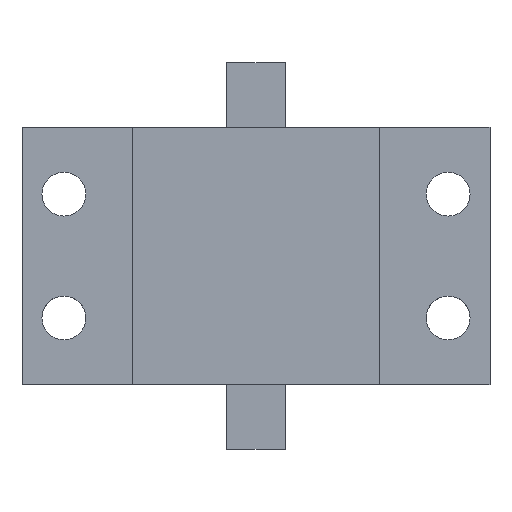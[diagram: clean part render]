
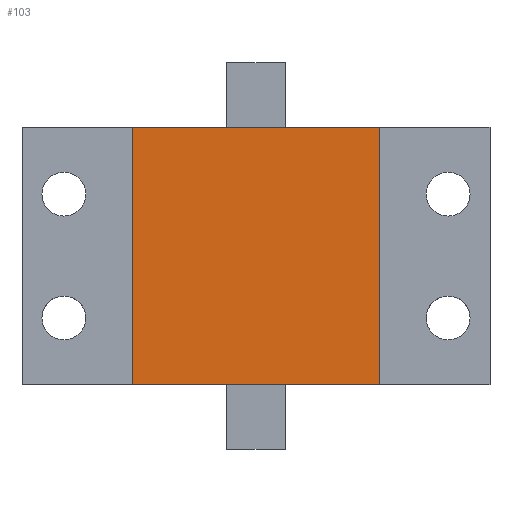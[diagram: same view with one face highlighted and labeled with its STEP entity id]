
A CAD part, top view. The second image highlights one B-rep face of the part: STEP entity #103.
In plain terms, the highlighted planar face has unit normal (0, 0, 1).
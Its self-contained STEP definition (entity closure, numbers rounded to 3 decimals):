
#103=ADVANCED_FACE('',(#311),#313,.T.);
#311=FACE_BOUND('',#312,.T.);
#312=EDGE_LOOP('',(#498,#499,#500,#501));
#313=PLANE('',#314);
#314=AXIS2_PLACEMENT_3D('',#315,#316,#317);
#315=CARTESIAN_POINT('',(0.,0.,11.2));
#316=DIRECTION('',(0.,0.,1.));
#317=DIRECTION('',(-1.,0.,0.));
#498=ORIENTED_EDGE('',*,*,#602,.T.);
#499=ORIENTED_EDGE('',*,*,#603,.T.);
#500=ORIENTED_EDGE('',*,*,#582,.T.);
#501=ORIENTED_EDGE('',*,*,#604,.T.);
#582=EDGE_CURVE('',#638,#639,#640,.T.);
#602=EDGE_CURVE('',#674,#675,#676,.T.);
#603=EDGE_CURVE('',#675,#638,#677,.T.);
#604=EDGE_CURVE('',#639,#674,#678,.T.);
#638=VERTEX_POINT('',#734);
#639=VERTEX_POINT('',#735);
#640=LINE('',#736,#737);
#674=VERTEX_POINT('',#810);
#675=VERTEX_POINT('',#811);
#676=LINE('',#812,#813);
#677=LINE('',#815,#816);
#678=LINE('',#818,#819);
#734=CARTESIAN_POINT('',(12.7,13.2,11.2));
#735=CARTESIAN_POINT('',(-12.7,13.2,11.2));
#736=CARTESIAN_POINT('',(12.7,13.2,11.2));
#737=VECTOR('',#738,1.);
#738=DIRECTION('',(-1.,0.,0.));
#810=CARTESIAN_POINT('',(-12.7,-13.2,11.2));
#811=CARTESIAN_POINT('',(12.7,-13.2,11.2));
#812=CARTESIAN_POINT('',(-12.7,-13.2,11.2));
#813=VECTOR('',#814,1.);
#814=DIRECTION('',(1.,0.,0.));
#815=CARTESIAN_POINT('',(12.7,-13.2,11.2));
#816=VECTOR('',#817,1.);
#817=DIRECTION('',(0.,1.,0.));
#818=CARTESIAN_POINT('',(-12.7,13.2,11.2));
#819=VECTOR('',#820,1.);
#820=DIRECTION('',(0.,-1.,0.));
